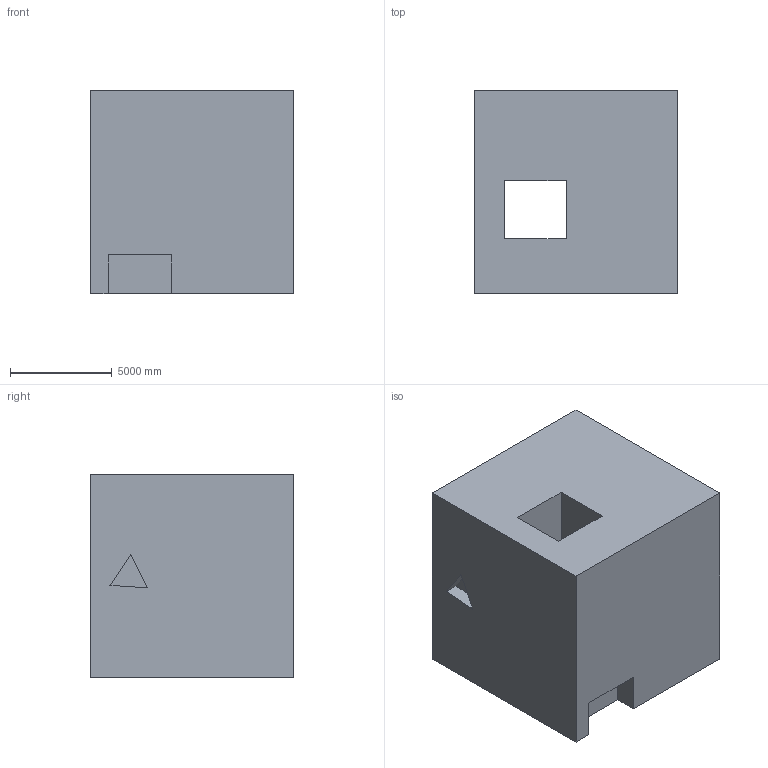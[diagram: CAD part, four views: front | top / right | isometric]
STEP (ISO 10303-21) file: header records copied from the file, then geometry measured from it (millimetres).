
FILE_DESCRIPTION (( 'STEP AP203' ), '1' );
FILE_NAME ('37.STEP', '2022-09-02T13:46:45', ( 'user' ), ( '' ), 'SwSTEP 2.0', 'SolidWorks 2021', '' );
FILE_SCHEMA (( 'CONFIG_CONTROL_DESIGN' ));
Length unit declared in the file: centimetre
Products named in the file (1): 37
Bounding box: 10000 x 10000 x 10000 mm (x, y, z)
Volume: 891081839093.2 mm3; surface area: 750207994.4 mm2
Topology: 1 solids, 1 shells, 24 faces, 57 edges, 38 vertices
Faces by surface type: plane 20, cylinder 4
Entity records: 770 total; most frequent: CARTESIAN_POINT 120, DIRECTION 115, ORIENTED_EDGE 114, EDGE_CURVE 57, VECTOR 49, LINE 49, VERTEX_POINT 38, AXIS2_PLACEMENT_3D 33
